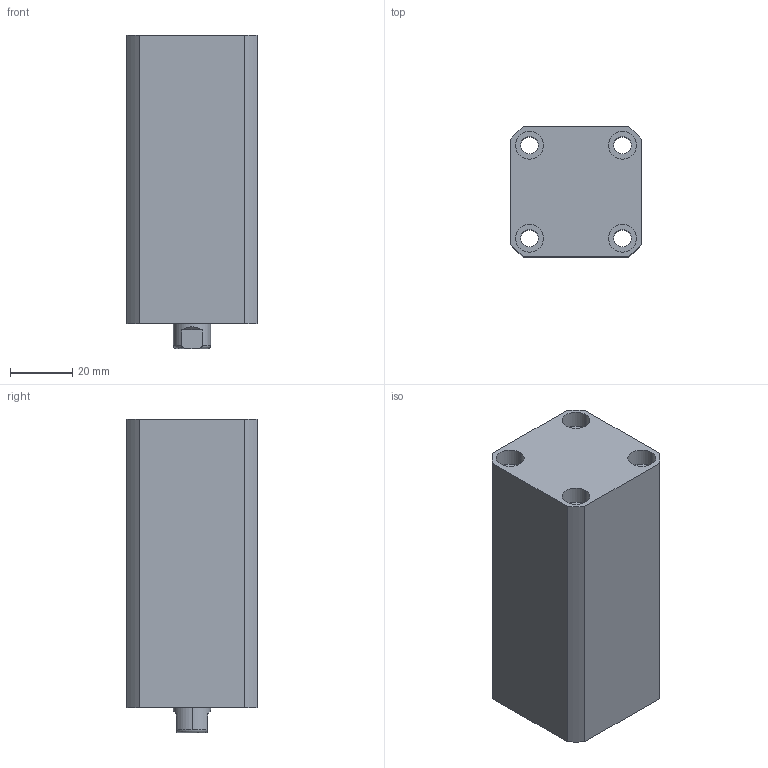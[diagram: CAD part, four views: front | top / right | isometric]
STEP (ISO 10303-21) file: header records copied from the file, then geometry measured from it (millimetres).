
FILE_DESCRIPTION (( 'STEP AP214' ), '1' );
FILE_NAME ('chtb-sd20x50n_asm.STEP', '2018-04-26T12:04:32', ( 'Windows' ), ( 'Microsoft' ), 'SwSTEP 2.0', 'SolidWorks 2015', '' );
FILE_SCHEMA (( 'AUTOMOTIVE_DESIGN' ));
Length unit declared in the file: millimetre
Products named in the file (4): chtb-sd20x50n_asm; QG; CHTB-SD20X50NHSG; CHTB-SD20X50NBT
Assembly tree (3 placements, depth 2):
  chtb-sd20x50n_asm
    CHTB-SD20X50NBT
    CHTB-SD20X50NHSG
    QG
Bounding box: 42 x 42 x 101 mm (x, y, z)
Volume: 137594.9 mm3; surface area: 41135 mm2
Topology: 3 solids, 3 shells, 192 faces, 499 edges, 330 vertices
Faces by surface type: cylinder 102, plane 36, torus 25, bspline 19, cone 10
Entity records: 10524 total; most frequent: CARTESIAN_POINT 5851, ORIENTED_EDGE 986, DIRECTION 903, EDGE_CURVE 493, AXIS2_PLACEMENT_3D 385, VERTEX_POINT 330, EDGE_LOOP 229, CIRCLE 206
